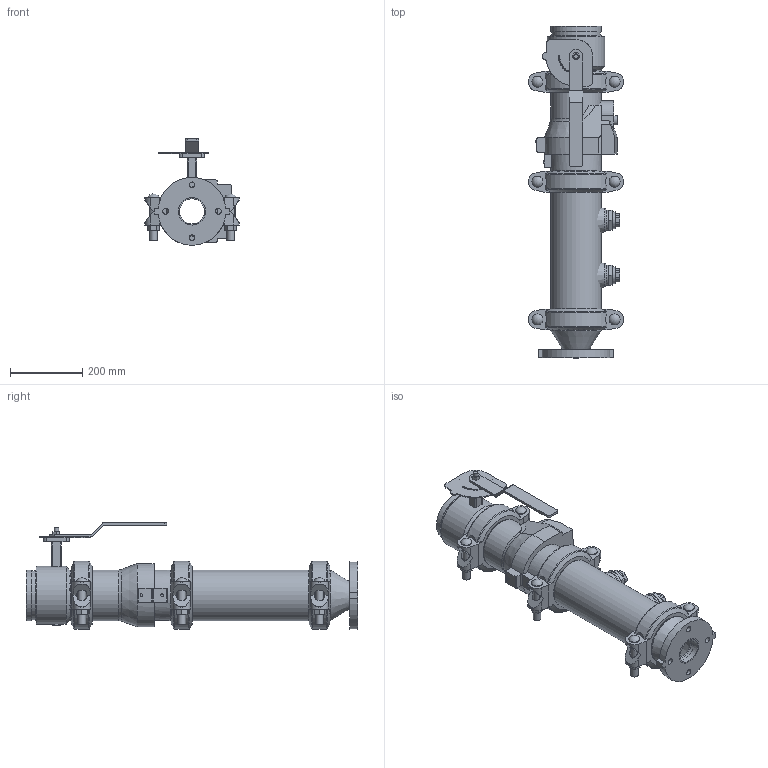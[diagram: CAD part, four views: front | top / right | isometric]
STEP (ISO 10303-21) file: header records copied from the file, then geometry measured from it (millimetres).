
FILE_DESCRIPTION(/* description */ ('VIC DVI PUMP DROP VERT S/390 (OGSxFLG)','CAx-IF Rec.Pracs.---Representation and Presentation of Product Manufacturing Information (PMI)---4.0---2014-10-13'),/* implementation_level */ '2;1');
FILE_NAME(/* name */ 'C:\Users\Vjadhav\AppData\Roaming\Autodesk\ApplicationPlugins\Back Up\Victaulic_IPS_Vertical DVI_PN10_Series 390 (OGSxFLG)\Victaulic_IPS_Vertical DVI_PN10_Series 390 (OGSxFLG)_05.0 (139.7)x02.5 (76.1) (125x65).stp',/* time_stamp */ '2020-11-09T17:50:22+05:00',/* author */ ('Vjadhav'),/* organization */ ('Victaulic'),/* preprocessor_version */ 'ST-DEVELOPER v17.2',/* originating_system */ 'Autodesk Inventor 2019',/* authorisation */ '');
FILE_SCHEMA (('AP242_MANAGED_MODEL_BASED_3D_ENGINEERING_MIM_LF { 1 0 10303 442 1 1 4 }'));
Length unit declared in the file: inch
Products named in the file (8): 390-05.0 (139.7)x02.5 (76.1); 741-02.5 (76.1); 050-05.0 (139.7)x02.5 (76.1); Pipe-05.0 (139.7); 177N-05.0 (139.7); 761-05.0 (139.7); 716-05.0 (139.7); 923-04.0x0.75
Assembly tree (10 placements, depth 2):
  390-05.0 (139.7)x02.5 (76.1)
    741-02.5 (76.1)
    050-05.0 (139.7)x02.5 (76.1)
    177N-05.0 (139.7)  x3
    Pipe-05.0 (139.7)
    761-05.0 (139.7)
    716-05.0 (139.7)
    923-04.0x0.75  x2
Bounding box: 260.6 x 917.96 x 294.13 mm (x, y, z)
Volume: 7663394.2 mm3; surface area: 1412059.3 mm2
Topology: 10 solids, 11 shells, 606 faces, 1622 edges, 1079 vertices
Faces by surface type: plane 357, cylinder 204, cone 20, torus 17, sphere 6, bspline 2
Full cylindrical faces by diameter (mm): 4.826 x10, 7.62 x2, 8.636 x4, 12.7 x2, 16.002 x4, 21.209 x6, 22.86 x1, 25.4 x1, 26.67 x2, 30.48 x6, 45.974 x4, 55.118 x1, 55.626 x2, 68.986 x1, 72.263 x1, 76.2 x3, 126.594 x1, 127 x3, 128.194 x2, 129.388 x1, 135.484 x7, 139.7 x19, 160.02 x1
Entity records: 12414 total; most frequent: CARTESIAN_POINT 2361, DIRECTION 2065, ORIENTED_EDGE 1900, EDGE_CURVE 950, AXIS2_PLACEMENT_3D 775, VERTEX_POINT 639, LINE 515, VECTOR 515
